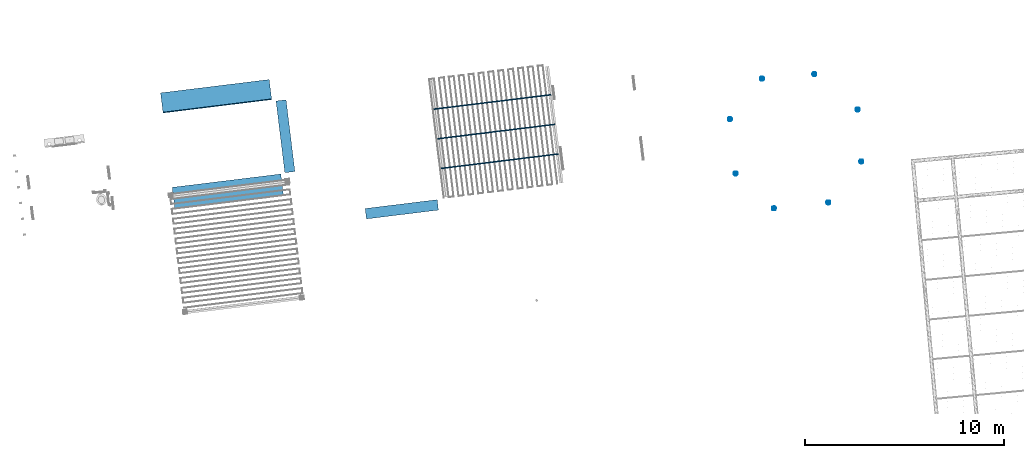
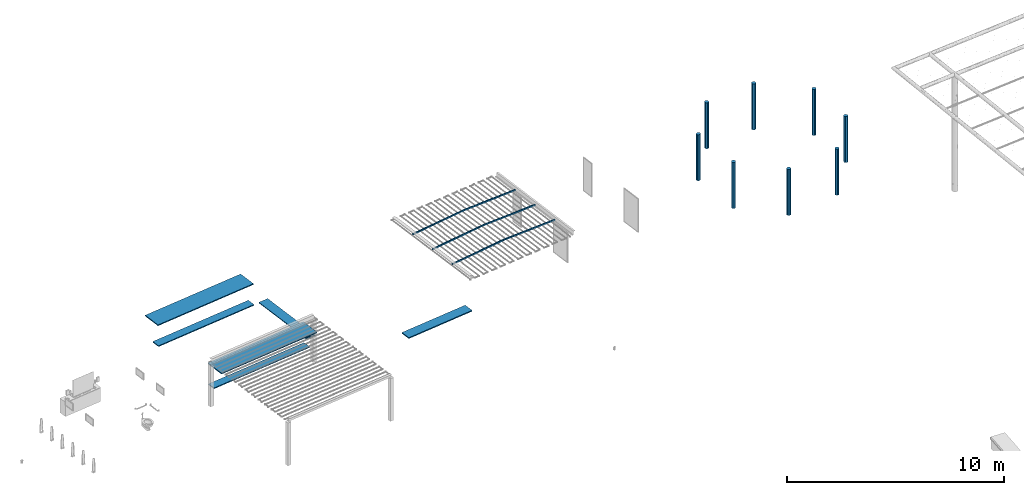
# One storey, part 1 of 10: 6 beams, 1 column, 1 wall, 2 elements without a shape of their own.
"""IFC2X3 building model written with IfcOpenShell, lengths in metres."""

from ifc_helpers import new_model, entity, si_unit, converted_unit, derived_unit, direction, frame, frame_2d, origin, origin_2d_with_axis, place, context, subcontext, project, spatial, rectangle, circle, extrude, source, transform, mapped, material, material_list, type_object, type_shapes, element, aggregate, save


model = new_model("IFC2X3")

# Units and contexts
model_context = context("Model", 3, precision=1e-05, world=origin(), true_north=direction((6.123031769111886e-17, 1.0)))
body_context = subcontext(model_context, "Body", "Model", "MODEL_VIEW")
ifc_project = project(units=[si_unit("LENGTHUNIT", "METRE"), si_unit("AREAUNIT", "SQUARE_METRE"), si_unit("VOLUMEUNIT", "CUBIC_METRE"), converted_unit("PLANEANGLEUNIT", "DEGREE", entity("IfcRatioMeasure", 0.017453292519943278), si_unit("PLANEANGLEUNIT", "RADIAN"), dimensions=[0, 0, 0, 0, 0, 0, 0]), si_unit("MASSUNIT", "GRAM", prefix="KILO"), derived_unit("MASSDENSITYUNIT", [(si_unit("MASSUNIT", "GRAM", prefix="KILO"), 1), (si_unit("LENGTHUNIT", "METRE"), -3)]), derived_unit("IONCONCENTRATIONUNIT", [(si_unit("MASSUNIT", "GRAM", prefix="KILO"), 1), (si_unit("LENGTHUNIT", "METRE"), -3)]), derived_unit("MOMENTOFINERTIAUNIT", [(si_unit("LENGTHUNIT", "METRE"), 4)]), si_unit("TIMEUNIT", "SECOND"), si_unit("FREQUENCYUNIT", "HERTZ"), si_unit("THERMODYNAMICTEMPERATUREUNIT", "DEGREE_CELSIUS"), derived_unit("THERMALTRANSMITTANCEUNIT", [(si_unit("MASSUNIT", "GRAM", prefix="KILO"), 1), (si_unit("THERMODYNAMICTEMPERATUREUNIT", "KELVIN"), -1), (si_unit("TIMEUNIT", "SECOND"), -3)]), derived_unit("THERMALCONDUCTANCEUNIT", [(si_unit("MASSUNIT", "GRAM", prefix="KILO"), 1), (si_unit("THERMODYNAMICTEMPERATUREUNIT", "KELVIN"), -1), (si_unit("TIMEUNIT", "SECOND"), -3), (si_unit("LENGTHUNIT", "METRE"), 1)]), derived_unit("VOLUMETRICFLOWRATEUNIT", [(si_unit("LENGTHUNIT", "METRE"), 3), (si_unit("TIMEUNIT", "SECOND"), -1)]), derived_unit("MASSFLOWRATEUNIT", [(si_unit("MASSUNIT", "GRAM", prefix="KILO"), 1), (si_unit("TIMEUNIT", "SECOND"), -1)]), derived_unit("ROTATIONALFREQUENCYUNIT", [(si_unit("TIMEUNIT", "SECOND"), -1)]), si_unit("ELECTRICCURRENTUNIT", "AMPERE"), si_unit("ELECTRICVOLTAGEUNIT", "VOLT"), si_unit("POWERUNIT", "WATT"), si_unit("FORCEUNIT", "NEWTON", prefix="KILO"), si_unit("ILLUMINANCEUNIT", "LUX"), si_unit("LUMINOUSFLUXUNIT", "LUMEN"), si_unit("LUMINOUSINTENSITYUNIT", "CANDELA"), derived_unit("USERDEFINED", [(si_unit("MASSUNIT", "GRAM", prefix="KILO"), -1), (si_unit("LENGTHUNIT", "METRE"), -2), (si_unit("TIMEUNIT", "SECOND"), 3), (si_unit("LUMINOUSFLUXUNIT", "LUMEN"), 1)]), derived_unit("USERDEFINED", [(si_unit("MASSUNIT", "GRAM", prefix="KILO"), 1), (si_unit("TIMEUNIT", "SECOND"), -3), (si_unit("LENGTHUNIT", "METRE"), 3), (si_unit("ELECTRICCURRENTUNIT", "AMPERE"), -2)]), derived_unit("SOUNDPOWERUNIT", [(si_unit("MASSUNIT", "GRAM", prefix="KILO"), 1), (si_unit("TIMEUNIT", "SECOND"), -3), (si_unit("LENGTHUNIT", "METRE"), 2)]), derived_unit("SOUNDPRESSUREUNIT", [(si_unit("MASSUNIT", "GRAM", prefix="KILO"), 1), (si_unit("LENGTHUNIT", "METRE"), -1), (si_unit("TIMEUNIT", "SECOND"), -2)]), derived_unit("LINEARVELOCITYUNIT", [(si_unit("LENGTHUNIT", "METRE"), 1), (si_unit("TIMEUNIT", "SECOND"), -1)]), si_unit("PRESSUREUNIT", "PASCAL"), derived_unit("USERDEFINED", [(si_unit("MASSUNIT", "GRAM", prefix="KILO"), 1), (si_unit("LENGTHUNIT", "METRE"), -2), (si_unit("TIMEUNIT", "SECOND"), -2)]), derived_unit("LINEARFORCEUNIT", [(si_unit("MASSUNIT", "GRAM", prefix="KILO"), 1), (si_unit("TIMEUNIT", "SECOND"), -2)]), derived_unit("PLANARFORCEUNIT", [(si_unit("MASSUNIT", "GRAM", prefix="KILO"), 1), (si_unit("LENGTHUNIT", "METRE"), -1), (si_unit("TIMEUNIT", "SECOND"), -2)]), derived_unit("SPECIFICHEATCAPACITYUNIT", [(si_unit("THERMODYNAMICTEMPERATUREUNIT", "KELVIN"), -1), (si_unit("LENGTHUNIT", "METRE"), 2), (si_unit("TIMEUNIT", "SECOND"), -2)]), derived_unit("HEATINGVALUEUNIT", [(si_unit("LENGTHUNIT", "METRE"), 2), (si_unit("TIMEUNIT", "SECOND"), -2)]), derived_unit("VAPORPERMEABILITYUNIT", [(si_unit("LENGTHUNIT", "METRE"), -1), (si_unit("TIMEUNIT", "SECOND"), 1)]), derived_unit("DYNAMICVISCOSITYUNIT", [(si_unit("MASSUNIT", "GRAM", prefix="KILO"), 1), (si_unit("TIMEUNIT", "SECOND"), -1), (si_unit("LENGTHUNIT", "METRE"), -1)]), derived_unit("THERMALEXPANSIONCOEFFICIENTUNIT", [(si_unit("THERMODYNAMICTEMPERATUREUNIT", "KELVIN"), -1)]), derived_unit("MODULUSOFELASTICITYUNIT", [(si_unit("MASSUNIT", "GRAM", prefix="KILO"), 1), (si_unit("LENGTHUNIT", "METRE"), -1), (si_unit("TIMEUNIT", "SECOND"), -2)]), derived_unit("ISOTHERMALMOISTURECAPACITYUNIT", [(si_unit("LENGTHUNIT", "METRE"), 3), (si_unit("MASSUNIT", "GRAM", prefix="KILO"), -1)]), derived_unit("MOISTUREDIFFUSIVITYUNIT", [(si_unit("TIMEUNIT", "SECOND"), -1), (si_unit("LENGTHUNIT", "METRE"), 2)])], contexts=[model_context])

# Site, building, storey
site_placement = place(None, origin())
site = spatial("IfcSite", under=ifc_project, at=site_placement, Name="Default", CompositionType="ELEMENT")
building_placement = place(site_placement, origin())
building = spatial("IfcBuilding", under=site, at=building_placement, Name="Projeto", CompositionType="ELEMENT")
storey_placement = place(building_placement, frame((0.0, 0.0, -2.581035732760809)))
storey = spatial("IfcBuildingStorey", under=building, at=storey_placement, Name="Nível 9", CompositionType="ELEMENT", Elevation=-2.581035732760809)

# Column
ifc_material_1 = material(Name="Cerejeira")
ifc_material_2 = material(Name="<Unnamed>")
ifc_material_list = material_list([ifc_material_2, ifc_material_1])
column_type = type_object("IfcColumnType", Name="Coreto:Coreto", PredefinedType="COLUMN", material=ifc_material_list)
shared_shape = source(origin(), body_context, "Body", "SweptSolid", [
    extrude(circle(Radius=0.09999999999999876, at=origin_2d_with_axis()), frame((18.950438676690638, 28.208158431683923, -2.082371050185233), z_axis=(0.0, 0.0, 1.0), x_axis=(-1.0, 0.0, 0.0)), (0.0, 0.0, 1.0), 2.582371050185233),
    extrude(circle(Radius=0.09999999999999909, at=origin_2d_with_axis()), frame((20.98292163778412, 34.95610651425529, -2.082371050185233), z_axis=(0.0, 0.0, 1.0), x_axis=(-1.0, 0.0, 0.0)), (0.0, 0.0, 1.0), 2.582371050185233),
    extrude(circle(Radius=0.09999999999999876, at=origin_2d_with_axis()), frame((18.352815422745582, 34.72950158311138, -2.082371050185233), z_axis=(0.0, 0.0, 1.0), x_axis=(-1.0, 0.0, 0.0)), (0.0, 0.0, 1.0), 2.582371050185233),
    extrude(circle(Radius=0.09999999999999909, at=origin_2d_with_axis()), frame((23.157844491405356, 33.174182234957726, -2.082371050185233), z_axis=(0.0, 0.0, 1.0), x_axis=(-1.0, 0.0, 0.0)), (0.0, 0.0, 1.0), 2.582371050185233),
    extrude(circle(Radius=0.09999999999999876, at=origin_2d_with_axis()), frame((16.741755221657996, 32.69500792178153, -2.082371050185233), z_axis=(0.0, 0.0, 1.0), x_axis=(-1.0, 0.0, 0.0)), (0.0, 0.0, 1.0), 2.582371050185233),
    extrude(circle(Radius=0.09999999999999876, at=origin_2d_with_axis()), frame((17.029633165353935, 29.96172412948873, -2.082371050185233), z_axis=(0.0, 0.0, 1.0), x_axis=(-1.0, 0.0, 0.0)), (0.0, 0.0, 1.0), 2.582371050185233),
    extrude(circle(Radius=0.09999999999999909, at=origin_2d_with_axis()), frame((21.682887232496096, 28.50440350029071, -2.082371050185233), z_axis=(0.0, 0.0, 1.0), x_axis=(-1.0, 0.0, 0.0)), (0.0, 0.0, 1.0), 2.582371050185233),
    extrude(circle(Radius=0.09999999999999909, at=origin_2d_with_axis()), frame((23.342052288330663, 30.56269759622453, -2.082371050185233), z_axis=(0.0, 0.0, 1.0), x_axis=(-1.0, 0.0, 0.0)), (0.0, 0.0, 1.0), 2.582371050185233),
])
type_shapes(column_type, [shared_shape])
column_placement = place(storey_placement, frame((0.0, 0.0, 2.581035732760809)))
element("IfcColumn", 1, at=column_placement, inside=storey, type_object=column_type, material=ifc_material_1, Name="Coreto:Coreto", ObjectType="Coreto:Coreto", context=body_context, shape_type="MappedRepresentation", body=[
    mapped(shared_shape, transform((0.0, 0.0, 0.0), scale=1.0)),
])

# Assembly, beams
assembly_1_placement = place(storey_placement, origin())
assembly_1 = element("IfcElementAssembly", 2, at=assembly_1_placement, inside=storey, Name="Sistema de viga estrutural:Sistema de estrutura estrutural", ObjectType="Sistema de viga estrutural:Sistema de estrutura estrutural", AssemblyPlace="NOTDEFINED", PredefinedType="BEAM_GRID")
ifc_material_3 = material(Name=".ET - EST METALICA")
beam_type = type_object("IfcBeamType", Name="23.25.30.11.14.14 - VIGA.MADEIRA:5x5 2", PredefinedType="NOTDEFINED")
beam_1_placement = place(assembly_1_placement, frame((8.145336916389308, 30.949361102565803, 2.4010357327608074), z_axis=(0.0, 0.0, 1.0), x_axis=(-0.9925113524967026, -0.12215242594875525, 0.0)))
beam_1 = element("IfcBeam", 3, at=beam_1_placement, type_object=beam_type, material=ifc_material_3, Name="23.25.30.11.14.14 - VIGA.MADEIRA:5x5 2", ObjectType="23.25.30.11.14.14 - VIGA.MADEIRA:5x5 2", context=body_context, shape_type="SweptSolid", body=[
    extrude(rectangle(XDim=0.04999999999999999, YDim=0.050000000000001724, at=frame_2d((-2.149322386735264e-15, -5.204170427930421e-18), x_axis=(0.0, 1.0))), frame((0.03727262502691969, 0.0, -0.06857121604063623), z_axis=(0.9992660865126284, 0.0, 0.03830519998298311), x_axis=(0.0, -1.0, 0.0)), (0.0, 0.0, 1.0), 2.9776033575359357),
])
beam_2_placement = place(assembly_1_placement, frame((7.962108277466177, 32.43812813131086, 2.4010357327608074), z_axis=(0.0, 0.0, 1.0), x_axis=(-0.9925113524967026, -0.12215242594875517, 0.0)))
beam_2 = element("IfcBeam", 4, at=beam_2_placement, type_object=beam_type, material=ifc_material_3, Name="23.25.30.11.14.14 - VIGA.MADEIRA:5x5 2", ObjectType="23.25.30.11.14.14 - VIGA.MADEIRA:5x5 2", context=body_context, shape_type="SweptSolid", body=[
    extrude(rectangle(XDim=0.05000000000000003, YDim=0.050000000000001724, at=frame_2d((-2.149322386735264e-15, 1.0408340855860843e-17), x_axis=(0.0, 1.0))), frame((0.037272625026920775, 0.0, -0.0685712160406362), z_axis=(0.9992660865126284, 0.0, 0.038305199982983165), x_axis=(0.0, -1.0, 0.0)), (0.0, 0.0, 1.0), 2.9776033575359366),
])
beam_3_placement = place(assembly_1_placement, frame((7.7788796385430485, 33.92689516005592, 2.4010357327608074), z_axis=(0.0, 0.0, 1.0), x_axis=(-0.9925113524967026, -0.12215242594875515, 0.0)))
beam_3 = element("IfcBeam", 5, at=beam_3_placement, type_object=beam_type, material=ifc_material_3, Name="23.25.30.11.14.14 - VIGA.MADEIRA:5x5 2", ObjectType="23.25.30.11.14.14 - VIGA.MADEIRA:5x5 2", context=body_context, shape_type="SweptSolid", body=[
    extrude(rectangle(XDim=0.04999999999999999, YDim=0.050000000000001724, at=frame_2d((-2.149322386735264e-15, -2.2551405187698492e-17), x_axis=(0.0, 1.0))), frame((0.0372726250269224, 0.0, -0.0685712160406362), z_axis=(0.9992660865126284, 0.0, 0.038305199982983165), x_axis=(0.0, -1.0, 0.0)), (0.0, 0.0, 1.0), 2.9776033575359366),
])
aggregate(assembly_1, [beam_1, beam_2, beam_3])

assembly_2_placement = place(storey_placement, origin())
assembly_2 = element("IfcElementAssembly", 6, at=assembly_2_placement, inside=storey, Name="Sistema de viga estrutural:Sistema de estrutura estrutural", ObjectType="Sistema de viga estrutural:Sistema de estrutura estrutural", AssemblyPlace="NOTDEFINED", PredefinedType="BEAM_GRID")
beam_4_placement = place(assembly_2_placement, frame((2.1935419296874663, 30.2168493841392, 2.4010357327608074), z_axis=(0.0, 0.0, 1.0), x_axis=(0.9925113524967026, 0.12215242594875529, 0.0)))
beam_4 = element("IfcBeam", 7, at=beam_4_placement, type_object=beam_type, material=ifc_material_3, Name="23.25.30.11.14.14 - VIGA.MADEIRA:5x5 2", ObjectType="23.25.30.11.14.14 - VIGA.MADEIRA:5x5 2", context=body_context, shape_type="SweptSolid", body=[
    extrude(rectangle(XDim=0.04999999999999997, YDim=0.05000000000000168, at=frame_2d((-2.1805474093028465e-15, 1.734723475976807e-17), x_axis=(0.0, 1.0))), frame((0.037272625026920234, 0.0, -0.06857121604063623), z_axis=(0.9992660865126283, 0.0, 0.03830519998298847), x_axis=(0.0, -1.0, 0.0)), (0.0, 0.0, 1.0), 2.9776033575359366),
])
beam_5_placement = place(assembly_2_placement, frame((2.010313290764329, 31.70561641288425, 2.4010357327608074), z_axis=(0.0, 0.0, 1.0), x_axis=(0.9925113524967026, 0.12215242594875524, 0.0)))
beam_5 = element("IfcBeam", 8, at=beam_5_placement, type_object=beam_type, material=ifc_material_3, Name="23.25.30.11.14.14 - VIGA.MADEIRA:5x5 2", ObjectType="23.25.30.11.14.14 - VIGA.MADEIRA:5x5 2", context=body_context, shape_type="SweptSolid", body=[
    extrude(rectangle(XDim=0.04999999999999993, YDim=0.05000000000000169, at=frame_2d((2.1805474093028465e-15, 1.734723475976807e-17), x_axis=(0.0, 1.0))), frame((0.037272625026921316, 0.0, -0.06857121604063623), z_axis=(0.9992660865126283, 0.0, 0.03830519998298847), x_axis=(0.0, -1.0, 0.0)), (0.0, 0.0, 1.0), 2.9776033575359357),
])
beam_6_placement = place(assembly_2_placement, frame((1.8270846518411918, 33.1943834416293, 2.4010357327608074), z_axis=(0.0, 0.0, 1.0), x_axis=(0.9925113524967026, 0.12215242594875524, 0.0)))
beam_6 = element("IfcBeam", 9, at=beam_6_placement, type_object=beam_type, material=ifc_material_3, Name="23.25.30.11.14.14 - VIGA.MADEIRA:5x5 2", ObjectType="23.25.30.11.14.14 - VIGA.MADEIRA:5x5 2", context=body_context, shape_type="SweptSolid", body=[
    extrude(rectangle(XDim=0.04999999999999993, YDim=0.05000000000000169, at=frame_2d((2.1805474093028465e-15, 1.734723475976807e-17), x_axis=(0.0, 1.0))), frame((0.03727262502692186, 0.0, -0.06857121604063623), z_axis=(0.9992660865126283, 0.0, 0.03830519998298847), x_axis=(0.0, -1.0, 0.0)), (0.0, 0.0, 1.0), 2.9776033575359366),
])
aggregate(assembly_2, [beam_4, beam_5, beam_6])

# Wall
ifc_material_4 = material(Name="Caixilho")
wall_type = type_object("IfcWallType", Name="Paredes 2:Paredes 1", PredefinedType="NOTDEFINED", material=ifc_material_4)
wall_placement = place(storey_placement, frame((-11.873702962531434, 27.680478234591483, 0.9010357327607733)))
element("IfcWall", 10, at=wall_placement, inside=storey, type_object=wall_type, material=ifc_material_4, Name="Paredes 2:Paredes 1", ObjectType="Paredes 2:Paredes 1", context=body_context, shape_type="SweptSolid", body=[
    extrude(rectangle(XDim=3.648020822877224, YDim=0.5290135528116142, at=frame_2d((3.3306690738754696e-16, -2.1871393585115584e-14), x_axis=(1.0, 0.0))), frame((12.120842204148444, 0.4853332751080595, 0.10011006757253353), z_axis=(0.0, 0.0, 1.0), x_axis=(-0.9925113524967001, -0.12215242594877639, 0.0)), (0.0, 0.0, 1.0), 0.05620281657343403),
    extrude(rectangle(XDim=3.635045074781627, YDim=0.51048878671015, at=frame_2d((-1.7763568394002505e-15, 3.469446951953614e-15), x_axis=(1.0, 0.0))), frame((6.275231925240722, 4.156011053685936, 0.10000000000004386), z_axis=(0.0, 0.0, 1.0), x_axis=(-0.12215242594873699, 0.9925113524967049, 0.0)), (0.0, 0.0, 1.0), 0.03951101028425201),
    extrude(rectangle(XDim=0.41993090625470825, YDim=5.500000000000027, at=frame_2d((4.371503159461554e-15, 0.0), x_axis=(1.0, 0.0))), frame((3.3458886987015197, 1.6622826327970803, 0.0), z_axis=(0.0, 0.0, 1.0), x_axis=(-0.12215242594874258, 0.9925113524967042, 0.0)), (0.0, 0.0, 1.0), 0.05068418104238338),
    extrude(rectangle(XDim=1.0490028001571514, YDim=5.499999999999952, at=frame_2d((2.220446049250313e-16, 1.7763568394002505e-15), x_axis=(1.0, 0.0))), frame((3.3775984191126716, 1.4046352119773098, 1.1467663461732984), z_axis=(0.0, 0.0, 1.0), x_axis=(-0.12215242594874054, 0.9925113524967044, 0.0)), (0.0, 0.0, 1.0), 0.05323365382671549),
    extrude(rectangle(XDim=0.9800000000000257, YDim=5.4999999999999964, at=frame_2d((2.1371793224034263e-15, -2.220446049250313e-16), x_axis=(1.0, 0.0))), frame((2.7892609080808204, 6.184987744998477, 1.14677381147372), z_axis=(0.0, 0.0, 1.0), x_axis=(-0.12215242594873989, 0.9925113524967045, 0.0)), (0.0, 0.0, 1.0), 0.053226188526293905),
    extrude(rectangle(XDim=0.43927662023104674, YDim=5.499999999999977, at=origin_2d_with_axis()), frame((2.827458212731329, 5.874627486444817, 0.0), z_axis=(0.0, 0.0, 1.0), x_axis=(-0.12215242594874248, 0.9925113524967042, 0.0)), (0.0, 0.0, 1.0), 0.05068418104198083),
])

save(model, "model.ifc")
